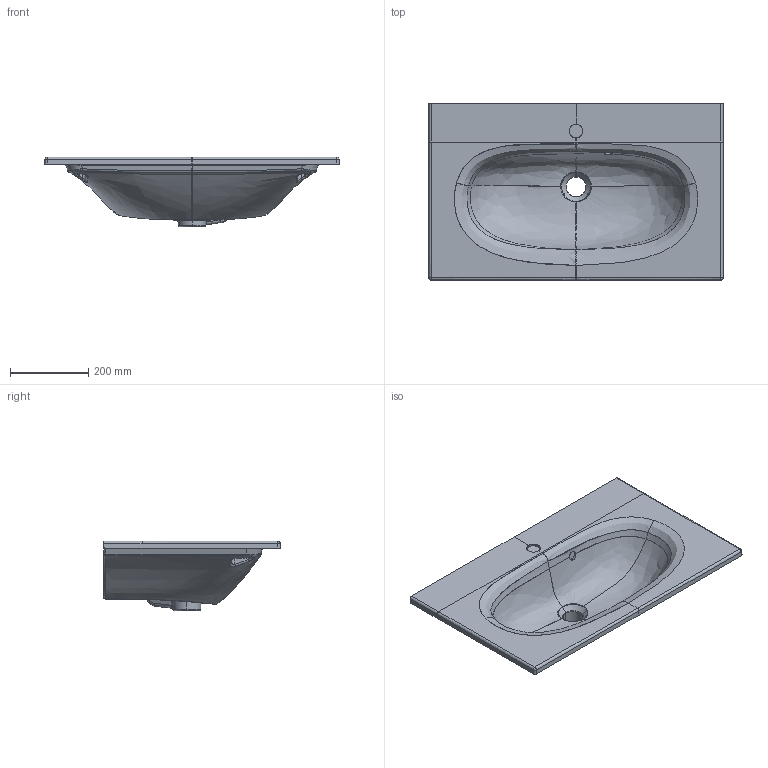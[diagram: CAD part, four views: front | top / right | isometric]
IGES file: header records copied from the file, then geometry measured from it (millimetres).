
Start section: START RECORD GO HERE.
Global section: file name: lavabo sosp 75 slim.igs; native system: IBM CATIA IGES - CATIA Version 5 Release 17 ; preprocessor: CATIA Version 5 Release 17 ; author: Luca; organization: PC-Luca; date: 20121108.151632; units: millimetre
Bounding box: 751.26 x 451.13 x 178.24 mm (x, y, z)
Surface area: 1025801.4 mm2 (no closed solid volume)
Topology: 0 solids, 0 shells, 508 faces, 2382 edges, 2371 vertices
Faces by surface type: bspline 508
